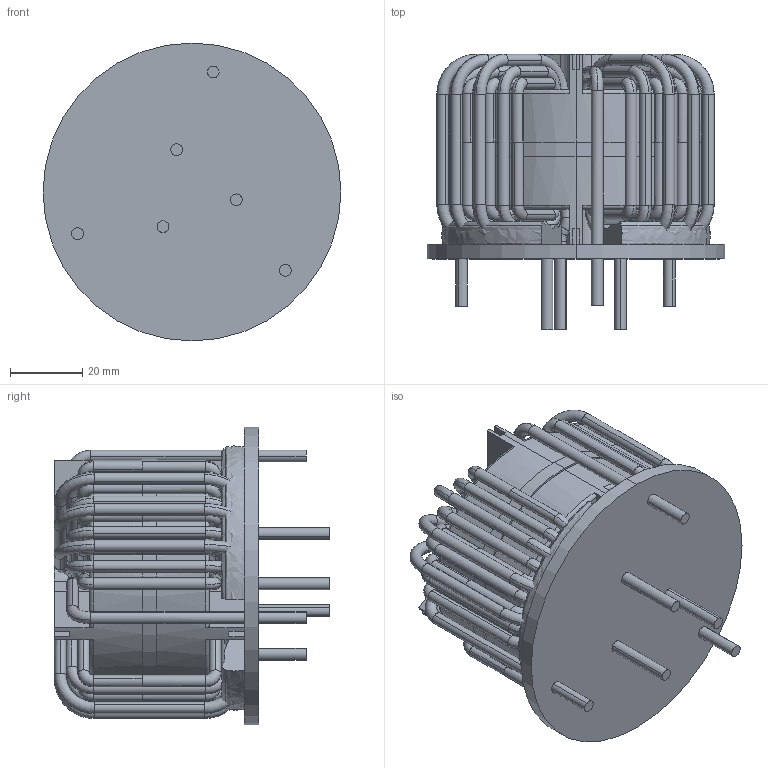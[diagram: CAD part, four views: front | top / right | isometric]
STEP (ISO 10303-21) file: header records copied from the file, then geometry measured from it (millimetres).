
FILE_DESCRIPTION (( 'STEP AP203' ), '1' );
FILE_NAME ('TPA-243U-B50A.STEP', '2020-06-10T13:57:01', ( 'Windows User' ), ( '' ), 'SwSTEP 2.0', 'SolidWorks 2015', '' );
FILE_SCHEMA (( 'CONFIG_CONTROL_DESIGN' ));
Length unit declared in the file: inch
Products named in the file (6): TPA-243U-B50A - FRAME; TPA-243U-B50A; TPA-243U-B50A - COIL; TPA-243U-B50A - CORE; TPA-243U-B50A - SPACER; TPA-243U-B50A - SILICONE
Assembly tree (5 placements, depth 2):
  TPA-243U-B50A
    TPA-243U-B50A - FRAME
    TPA-243U-B50A - CORE
    TPA-243U-B50A - COIL
    TPA-243U-B50A - SPACER
    TPA-243U-B50A - SILICONE
Bounding box: 82.54 x 76.3 x 82.54 mm (x, y, z)
Volume: 169529 mm3; surface area: 90329.8 mm2
Topology: 17 solids, 17 shells, 989 faces, 2994 edges, 1988 vertices
Faces by surface type: cylinder 454, torus 359, plane 121, bspline 55
Entity records: 41299 total; most frequent: CARTESIAN_POINT 13196, DIRECTION 6166, ORIENTED_EDGE 5988, EDGE_CURVE 2994, AXIS2_PLACEMENT_3D 2809, VERTEX_POINT 1988, CIRCLE 1867, EDGE_LOOP 1060
